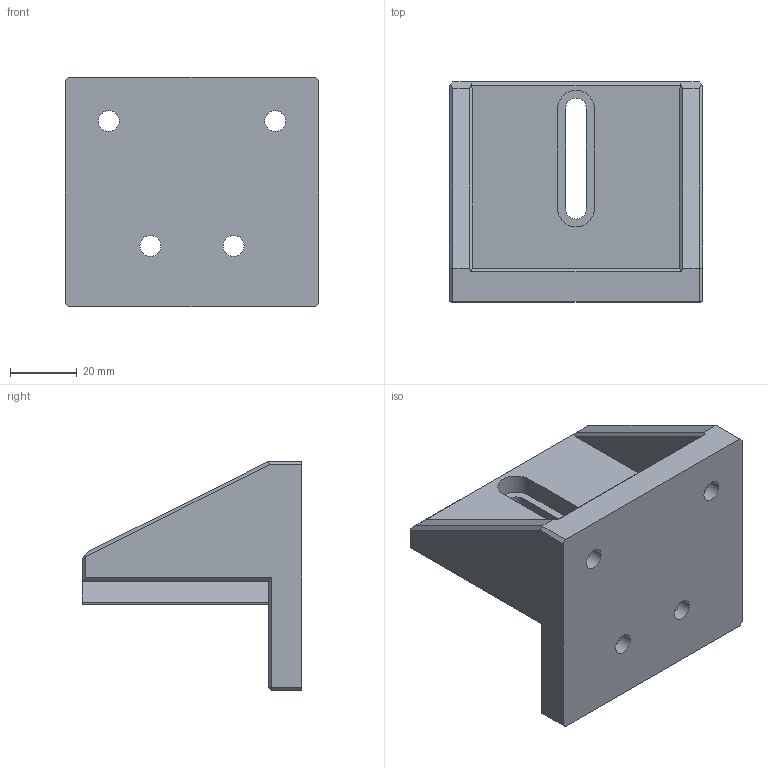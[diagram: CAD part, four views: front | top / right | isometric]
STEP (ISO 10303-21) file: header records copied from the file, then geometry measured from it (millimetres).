
FILE_DESCRIPTION (( 'STEP AP214' ), '1' );
FILE_NAME ('2019_miCube_Dovetail Bracket.STEP', '2019-05-27T07:26:52', ( '' ), ( '' ), 'SwSTEP 2.0', 'SolidWorks 2017', '' );
FILE_SCHEMA (( 'AUTOMOTIVE_DESIGN' ));
Length unit declared in the file: millimetre
Products named in the file (1): 2019_miCube_Dovetail Bracket
Bounding box: 76 x 66 x 68.8 mm (x, y, z)
Volume: 97819.6 mm3; surface area: 28381.4 mm2
Topology: 1 solids, 1 shells, 78 faces, 199 edges, 128 vertices
Faces by surface type: plane 56, cylinder 22
Entity records: 2389 total; most frequent: CARTESIAN_POINT 406, DIRECTION 401, ORIENTED_EDGE 398, EDGE_CURVE 199, VECTOR 155, LINE 155, VERTEX_POINT 128, AXIS2_PLACEMENT_3D 123
